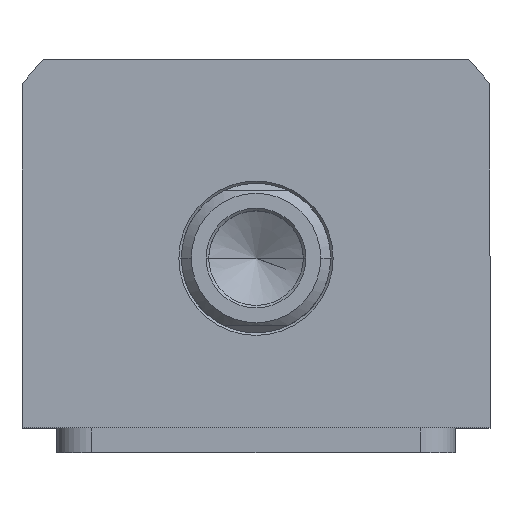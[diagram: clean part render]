
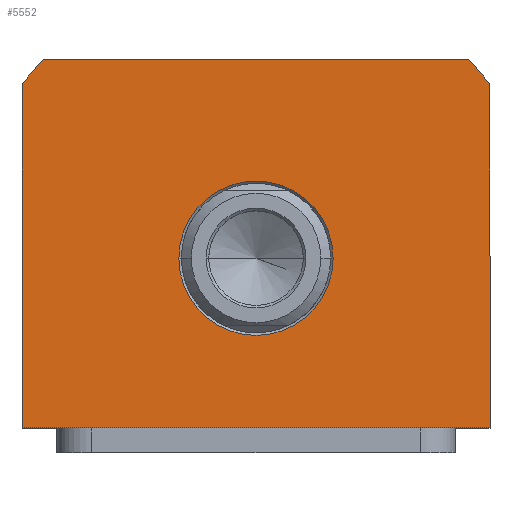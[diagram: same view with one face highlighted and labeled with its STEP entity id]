
A CAD part, top view. The second image highlights one B-rep face of the part: STEP entity #5552.
In plain terms, the highlighted planar face has unit normal (0, 0, 1).
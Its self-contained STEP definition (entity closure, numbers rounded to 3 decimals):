
#144 = VERTEX_POINT ( 'NONE', #3734 ) ;
#478 = DIRECTION ( 'NONE',  ( 1., 0., 0. ) ) ;
#510 = DIRECTION ( 'NONE',  ( 0., 0., 1. ) ) ;
#598 = CARTESIAN_POINT ( 'NONE',  ( -42.688, 40., 42.5 ) ) ;
#747 = DIRECTION ( 'NONE',  ( 1., 0., 0. ) ) ;
#860 = EDGE_CURVE ( 'NONE', #3383, #6457, #1488, .T. ) ;
#903 = VERTEX_POINT ( 'NONE', #2644 ) ;
#1060 = ORIENTED_EDGE ( 'NONE', *, *, #6210, .T. ) ;
#1328 = EDGE_LOOP ( 'NONE', ( #1589, #10769, #1831, #10426, #2702, #2428 ) ) ;
#1399 = CIRCLE ( 'NONE', #9727, 15.5 ) ;
#1408 = FACE_BOUND ( 'NONE', #5026, .T. ) ;
#1488 = LINE ( 'NONE', #7275, #2070 ) ;
#1521 = PLANE ( 'NONE',  #2571 ) ;
#1532 = LINE ( 'NONE', #4118, #8582 ) ;
#1589 = ORIENTED_EDGE ( 'NONE', *, *, #7910, .T. ) ;
#1831 = ORIENTED_EDGE ( 'NONE', *, *, #5254, .T. ) ;
#2014 = AXIS2_PLACEMENT_3D ( 'NONE', #6789, #3953, #3007 ) ;
#2052 = DIRECTION ( 'NONE',  ( 0., 0., -1. ) ) ;
#2070 = VECTOR ( 'NONE', #11828, 1000. ) ;
#2253 = CIRCLE ( 'NONE', #2472, 58.5 ) ;
#2428 = ORIENTED_EDGE ( 'NONE', *, *, #9640, .T. ) ;
#2455 = VERTEX_POINT ( 'NONE', #11578 ) ;
#2472 = AXIS2_PLACEMENT_3D ( 'NONE', #8395, #8322, #10185 ) ;
#2571 = AXIS2_PLACEMENT_3D ( 'NONE', #6001, #510, #9842 ) ;
#2644 = CARTESIAN_POINT ( 'NONE',  ( -47., -34., 42.5 ) ) ;
#2702 = ORIENTED_EDGE ( 'NONE', *, *, #3190, .T. ) ;
#2719 = FACE_OUTER_BOUND ( 'NONE', #1328, .T. ) ;
#3007 = DIRECTION ( 'NONE',  ( 1., 0., 0. ) ) ;
#3190 = EDGE_CURVE ( 'NONE', #6457, #4267, #2253, .T. ) ;
#3383 = VERTEX_POINT ( 'NONE', #7389 ) ;
#3495 = CARTESIAN_POINT ( 'NONE',  ( 0., 0., 42.5 ) ) ;
#3734 = CARTESIAN_POINT ( 'NONE',  ( 47., 34.832, 42.5 ) ) ;
#3947 = EDGE_CURVE ( 'NONE', #5143, #11345, #9637, .T. ) ;
#3953 = DIRECTION ( 'NONE',  ( 0., 0., 1. ) ) ;
#4118 = CARTESIAN_POINT ( 'NONE',  ( 47., -34., 42.5 ) ) ;
#4157 = LINE ( 'NONE', #10619, #11293 ) ;
#4267 = VERTEX_POINT ( 'NONE', #6857 ) ;
#4404 = AXIS2_PLACEMENT_3D ( 'NONE', #3495, #11724, #747 ) ;
#4915 = DIRECTION ( 'NONE',  ( 1., 0., 0. ) ) ;
#4919 = VECTOR ( 'NONE', #8356, 1000. ) ;
#4972 = CARTESIAN_POINT ( 'NONE',  ( 15.5, 0., 42.5 ) ) ;
#5026 = EDGE_LOOP ( 'NONE', ( #1060, #11679 ) ) ;
#5112 = DIRECTION ( 'NONE',  ( 0., 1., 0. ) ) ;
#5143 = VERTEX_POINT ( 'NONE', #9991 ) ;
#5254 = EDGE_CURVE ( 'NONE', #144, #3383, #5889, .T. ) ;
#5552 = ADVANCED_FACE ( 'NONE', ( #1408, #2719 ), #1521, .T. ) ;
#5604 = EDGE_CURVE ( 'NONE', #2455, #144, #4157, .T. ) ;
#5889 = CIRCLE ( 'NONE', #2014, 58.5 ) ;
#6001 = CARTESIAN_POINT ( 'NONE',  ( 0., 0., 42.5 ) ) ;
#6210 = EDGE_CURVE ( 'NONE', #11345, #5143, #1399, .T. ) ;
#6457 = VERTEX_POINT ( 'NONE', #598 ) ;
#6660 = CARTESIAN_POINT ( 'NONE',  ( 0., 0., 42.5 ) ) ;
#6789 = CARTESIAN_POINT ( 'NONE',  ( 0., 0., 42.5 ) ) ;
#6857 = CARTESIAN_POINT ( 'NONE',  ( -47., 34.832, 42.5 ) ) ;
#7275 = CARTESIAN_POINT ( 'NONE',  ( -42.688, 40., 42.5 ) ) ;
#7389 = CARTESIAN_POINT ( 'NONE',  ( 42.688, 40., 42.5 ) ) ;
#7542 = CARTESIAN_POINT ( 'NONE',  ( -47., -34., 42.5 ) ) ;
#7646 = LINE ( 'NONE', #7542, #4919 ) ;
#7910 = EDGE_CURVE ( 'NONE', #903, #2455, #1532, .T. ) ;
#8322 = DIRECTION ( 'NONE',  ( 0., 0., 1. ) ) ;
#8356 = DIRECTION ( 'NONE',  ( 0., -1., 0. ) ) ;
#8395 = CARTESIAN_POINT ( 'NONE',  ( 0., 0., 42.5 ) ) ;
#8582 = VECTOR ( 'NONE', #478, 1000. ) ;
#9637 = CIRCLE ( 'NONE', #4404, 15.5 ) ;
#9640 = EDGE_CURVE ( 'NONE', #4267, #903, #7646, .T. ) ;
#9727 = AXIS2_PLACEMENT_3D ( 'NONE', #6660, #2052, #4915 ) ;
#9842 = DIRECTION ( 'NONE',  ( 1., 0., 0. ) ) ;
#9991 = CARTESIAN_POINT ( 'NONE',  ( -15.5, 0., 42.5 ) ) ;
#10185 = DIRECTION ( 'NONE',  ( 1., 0., 0. ) ) ;
#10426 = ORIENTED_EDGE ( 'NONE', *, *, #860, .T. ) ;
#10619 = CARTESIAN_POINT ( 'NONE',  ( 47., 34.832, 42.5 ) ) ;
#10769 = ORIENTED_EDGE ( 'NONE', *, *, #5604, .T. ) ;
#11293 = VECTOR ( 'NONE', #5112, 1000. ) ;
#11345 = VERTEX_POINT ( 'NONE', #4972 ) ;
#11578 = CARTESIAN_POINT ( 'NONE',  ( 47., -34., 42.5 ) ) ;
#11679 = ORIENTED_EDGE ( 'NONE', *, *, #3947, .T. ) ;
#11724 = DIRECTION ( 'NONE',  ( 0., 0., -1. ) ) ;
#11828 = DIRECTION ( 'NONE',  ( -1., 0., 0. ) ) ;
